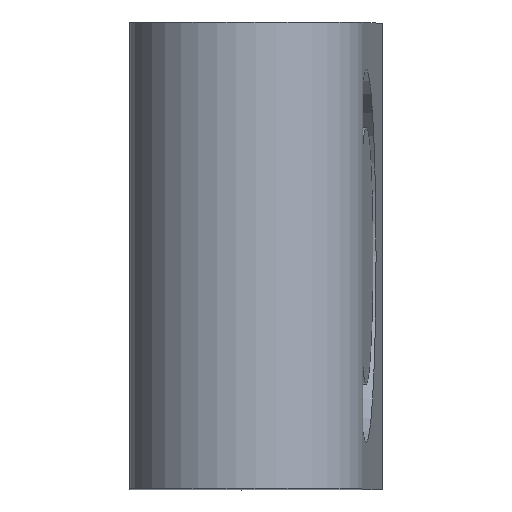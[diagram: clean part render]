
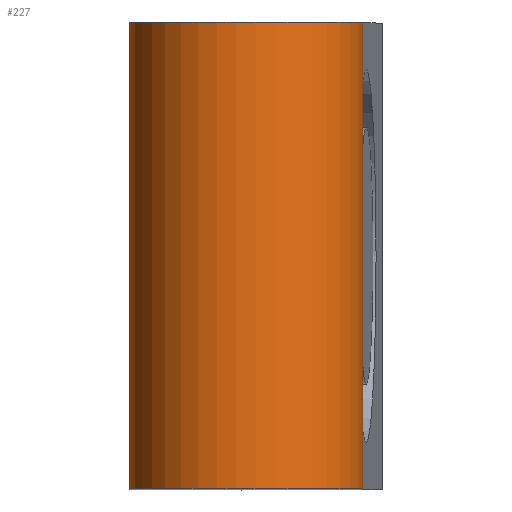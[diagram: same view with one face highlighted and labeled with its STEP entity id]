
A CAD part, top view. The second image highlights one B-rep face of the part: STEP entity #227.
In plain terms, the highlighted cylindrical face has radius 2.5 mm (diameter 5 mm), a partial arc.
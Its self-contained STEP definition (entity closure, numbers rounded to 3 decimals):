
#15=CYLINDRICAL_SURFACE('',#261,2.5);
#30=FACE_OUTER_BOUND('',#47,.T.);
#47=EDGE_LOOP('',(#171,#172,#173,#174));
#62=CIRCLE('',#254,2.5);
#68=CIRCLE('',#262,2.5);
#81=LINE('',#378,#97);
#82=LINE('',#384,#98);
#97=VECTOR('',#302,10.);
#98=VECTOR('',#309,10.);
#108=VERTEX_POINT('',#357);
#110=VERTEX_POINT('',#360);
#117=VERTEX_POINT('',#376);
#119=VERTEX_POINT('',#382);
#129=EDGE_CURVE('',#108,#110,#62,.T.);
#138=EDGE_CURVE('',#108,#117,#81,.T.);
#140=EDGE_CURVE('',#117,#119,#68,.T.);
#141=EDGE_CURVE('',#110,#119,#82,.T.);
#171=ORIENTED_EDGE('',*,*,#138,.T.);
#172=ORIENTED_EDGE('',*,*,#140,.T.);
#173=ORIENTED_EDGE('',*,*,#141,.F.);
#174=ORIENTED_EDGE('',*,*,#129,.F.);
#227=ADVANCED_FACE('',(#30),#15,.T.);
#254=AXIS2_PLACEMENT_3D('',#361,#286,#287);
#261=AXIS2_PLACEMENT_3D('',#381,#305,#306);
#262=AXIS2_PLACEMENT_3D('',#383,#307,#308);
#286=DIRECTION('center_axis',(0.,-1.,0.));
#287=DIRECTION('ref_axis',(1.,0.,0.));
#302=DIRECTION('',(0.,1.,0.));
#305=DIRECTION('center_axis',(0.,-1.,0.));
#306=DIRECTION('ref_axis',(0.168,0.,0.986));
#307=DIRECTION('center_axis',(0.,-1.,0.));
#308=DIRECTION('ref_axis',(1.,0.,0.));
#309=DIRECTION('',(0.,1.,0.));
#357=CARTESIAN_POINT('',(-12.681,10.,-8.933));
#360=CARTESIAN_POINT('',(-17.498,10.,-8.112));
#361=CARTESIAN_POINT('Origin',(-15.,10.,-8.));
#376=CARTESIAN_POINT('',(-12.681,20.,-8.933));
#378=CARTESIAN_POINT('',(-12.681,10.,-8.933));
#381=CARTESIAN_POINT('Origin',(-15.,10.,-8.));
#382=CARTESIAN_POINT('',(-17.498,20.,-8.112));
#383=CARTESIAN_POINT('Origin',(-15.,20.,-8.));
#384=CARTESIAN_POINT('',(-17.498,10.,-8.112));
